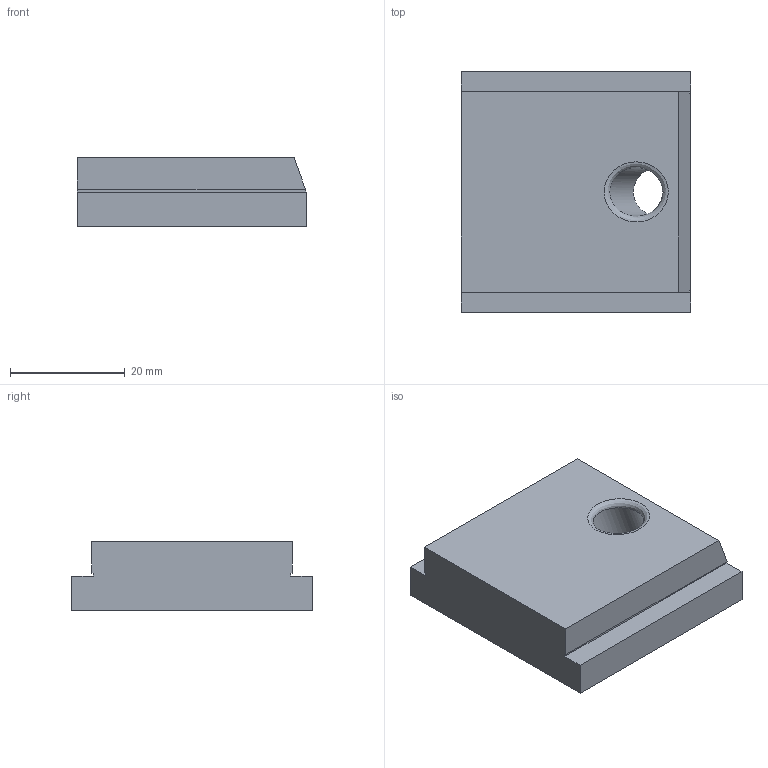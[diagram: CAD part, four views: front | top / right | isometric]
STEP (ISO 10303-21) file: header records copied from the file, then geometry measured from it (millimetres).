
FILE_DESCRIPTION (( 'STEP AP214' ), '1' );
FILE_NAME ('Schieber_-_H12 B35 L40.step', '2024-01-15T11:26:46', ( '' ), ( '' ), 'SwSTEP 2.0', 'SolidWorks 2020', '' );
FILE_SCHEMA (( 'AUTOMOTIVE_DESIGN' ));
Length unit declared in the file: millimetre
Products named in the file (1): Schieber_-_H12 B35 L40
Bounding box: 40 x 42 x 12 mm (x, y, z)
Volume: 17507.2 mm3; surface area: 5424.1 mm2
Topology: 1 solids, 1 shells, 205 faces, 549 edges, 365 vertices
Faces by surface type: plane 120, bspline 84, cylinder 1
Full cylindrical faces by diameter (mm): 8.5 x1
Entity records: 10719 total; most frequent: CARTESIAN_POINT 6144, ORIENTED_EDGE 1094, DIRECTION 622, EDGE_CURVE 547, VECTOR 378, LINE 378, VERTEX_POINT 365, EDGE_LOOP 228
